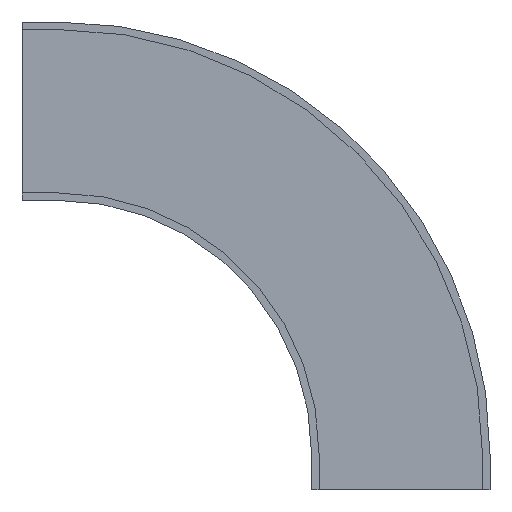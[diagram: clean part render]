
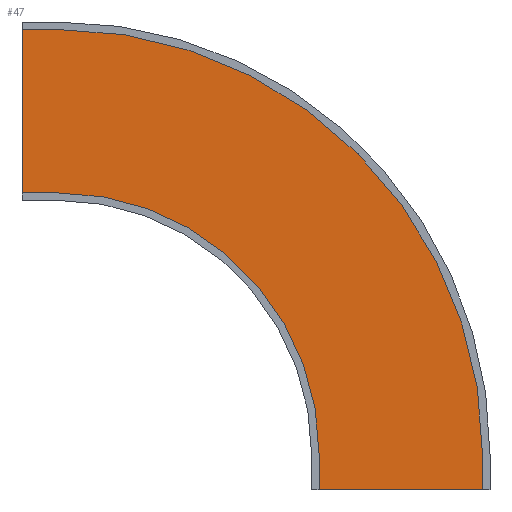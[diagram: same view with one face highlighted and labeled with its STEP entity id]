
A CAD part, front view. The second image highlights one B-rep face of the part: STEP entity #47.
In plain terms, the highlighted planar face has unit normal (0, -1, 0).
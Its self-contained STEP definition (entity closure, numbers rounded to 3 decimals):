
#47 = ADVANCED_FACE ( 'NONE', ( #544 ), #848, .F. ) ;
#82 = ORIENTED_EDGE ( 'NONE', *, *, #1791, .T. ) ;
#83 = ORIENTED_EDGE ( 'NONE', *, *, #1790, .F. ) ;
#84 = ORIENTED_EDGE ( 'NONE', *, *, #1789, .F. ) ;
#85 = ORIENTED_EDGE ( 'NONE', *, *, #1782, .T. ) ;
#86 = ORIENTED_EDGE ( 'NONE', *, *, #1788, .T. ) ;
#87 = ORIENTED_EDGE ( 'NONE', *, *, #1787, .F. ) ;
#88 = ORIENTED_EDGE ( 'NONE', *, *, #1786, .F. ) ;
#89 = ORIENTED_EDGE ( 'NONE', *, *, #1785, .F. ) ;
#344 = VERTEX_POINT ( 'NONE', #930 ) ;
#351 = VERTEX_POINT ( 'NONE', #937 ) ;
#354 = VERTEX_POINT ( 'NONE', #940 ) ;
#355 = VERTEX_POINT ( 'NONE', #941 ) ;
#356 = VERTEX_POINT ( 'NONE', #942 ) ;
#357 = VERTEX_POINT ( 'NONE', #943 ) ;
#358 = VERTEX_POINT ( 'NONE', #944 ) ;
#361 = VERTEX_POINT ( 'NONE', #947 ) ;
#481 = EDGE_LOOP ( 'NONE', ( #89, #88, #87, #86, #85, #84, #83, #82 ) ) ;
#544 = FACE_OUTER_BOUND ( 'NONE', #481, .T. ) ;
#848 = PLANE ( 'NONE',  #1260 ) ;
#850 = CARTESIAN_POINT ( 'NONE',  ( 0., -68., 731.4 ) ) ;
#855 = DIRECTION ( 'NONE',  ( 0., 1., 0. ) ) ;
#856 = DIRECTION ( 'NONE',  ( -1., 0., 0. ) ) ;
#930 = CARTESIAN_POINT ( 'NONE',  ( 1188.6, -68., 0. ) ) ;
#937 = CARTESIAN_POINT ( 'NONE',  ( 0., -68., 731.4 ) ) ;
#940 = CARTESIAN_POINT ( 'NONE',  ( 731.4, -68., 0. ) ) ;
#941 = CARTESIAN_POINT ( 'NONE',  ( 731.4, -68., -100. ) ) ;
#942 = CARTESIAN_POINT ( 'NONE',  ( -100., -68., 1188.6 ) ) ;
#943 = CARTESIAN_POINT ( 'NONE',  ( 0., -68., 1188.6 ) ) ;
#944 = CARTESIAN_POINT ( 'NONE',  ( -100., -68., 731.4 ) ) ;
#947 = CARTESIAN_POINT ( 'NONE',  ( 1188.6, -68., -100. ) ) ;
#1186 = DIRECTION ( 'NONE',  ( 1., 0., 0. ) ) ;
#1188 = CARTESIAN_POINT ( 'NONE',  ( 0., -68., 0. ) ) ;
#1189 = DIRECTION ( 'NONE',  ( 0., 1., 0. ) ) ;
#1190 = DIRECTION ( 'NONE',  ( -1., 0., 0. ) ) ;
#1193 = CARTESIAN_POINT ( 'NONE',  ( -100., -68., 0. ) ) ;
#1194 = CARTESIAN_POINT ( 'NONE',  ( 0., -68., -100. ) ) ;
#1195 = CARTESIAN_POINT ( 'NONE',  ( -100., -68., 1188.6 ) ) ;
#1196 = CARTESIAN_POINT ( 'NONE',  ( 0., -68., 0. ) ) ;
#1197 = DIRECTION ( 'NONE',  ( 0., 1., 0. ) ) ;
#1198 = DIRECTION ( 'NONE',  ( -1., 0., 0. ) ) ;
#1199 = DIRECTION ( 'NONE',  ( 0., 0., 1. ) ) ;
#1200 = CARTESIAN_POINT ( 'NONE',  ( -100., -68., 731.4 ) ) ;
#1201 = DIRECTION ( 'NONE',  ( 1., 0., 0. ) ) ;
#1202 = CARTESIAN_POINT ( 'NONE',  ( 731.4, -68., -100. ) ) ;
#1204 = DIRECTION ( 'NONE',  ( 0., 0., 1. ) ) ;
#1205 = DIRECTION ( 'NONE',  ( -1., 0., 0. ) ) ;
#1206 = CARTESIAN_POINT ( 'NONE',  ( 1188.6, -68., -100. ) ) ;
#1207 = DIRECTION ( 'NONE',  ( 0., 0., 1. ) ) ;
#1260 = AXIS2_PLACEMENT_3D ( 'NONE', #850, #855, #856 ) ;
#1287 = AXIS2_PLACEMENT_3D ( 'NONE', #1188, #1189, #1190 ) ;
#1288 = AXIS2_PLACEMENT_3D ( 'NONE', #1196, #1197, #1198 ) ;
#1375 = CIRCLE ( 'NONE', #1287, 731.4 ) ;
#1377 = LINE ( 'NONE', #1195, #1384 ) ;
#1380 = CIRCLE ( 'NONE', #1288, 1188.6 ) ;
#1382 = LINE ( 'NONE', #1193, #1386 ) ;
#1383 = LINE ( 'NONE', #1194, #1392 ) ;
#1384 = VECTOR ( 'NONE', #1186, 1000. ) ;
#1385 = LINE ( 'NONE', #1200, #1388 ) ;
#1386 = VECTOR ( 'NONE', #1199, 1000. ) ;
#1387 = LINE ( 'NONE', #1202, #1390 ) ;
#1388 = VECTOR ( 'NONE', #1201, 1000. ) ;
#1390 = VECTOR ( 'NONE', #1204, 1000. ) ;
#1391 = LINE ( 'NONE', #1206, #1394 ) ;
#1392 = VECTOR ( 'NONE', #1205, 1000. ) ;
#1394 = VECTOR ( 'NONE', #1207, 1000. ) ;
#1782 = EDGE_CURVE ( 'NONE', #351, #354, #1375, .T. ) ;
#1785 = EDGE_CURVE ( 'NONE', #357, #344, #1380, .T. ) ;
#1786 = EDGE_CURVE ( 'NONE', #356, #357, #1377, .T. ) ;
#1787 = EDGE_CURVE ( 'NONE', #358, #356, #1382, .T. ) ;
#1788 = EDGE_CURVE ( 'NONE', #358, #351, #1385, .T. ) ;
#1789 = EDGE_CURVE ( 'NONE', #355, #354, #1387, .T. ) ;
#1790 = EDGE_CURVE ( 'NONE', #361, #355, #1383, .T. ) ;
#1791 = EDGE_CURVE ( 'NONE', #361, #344, #1391, .T. ) ;
